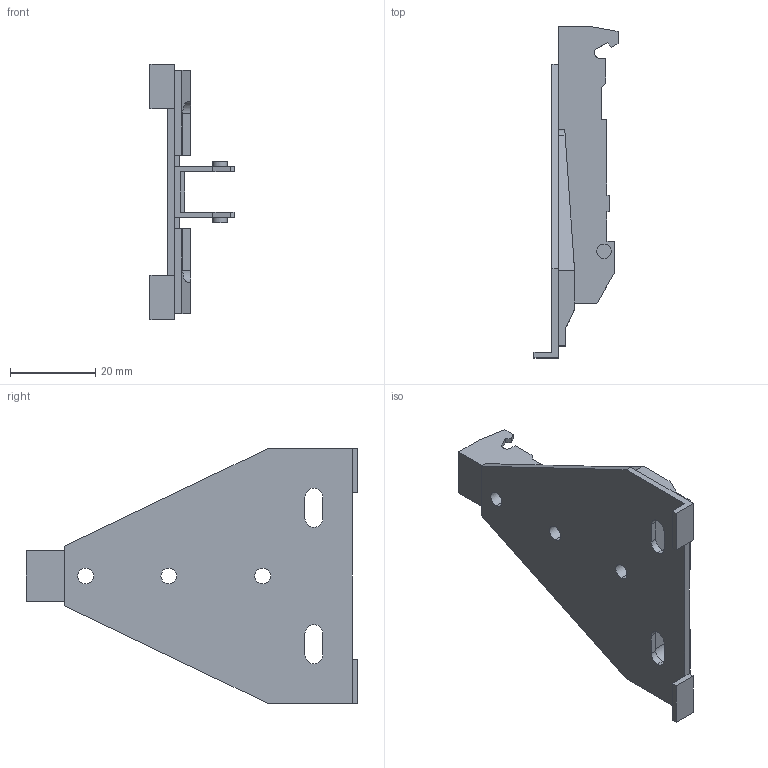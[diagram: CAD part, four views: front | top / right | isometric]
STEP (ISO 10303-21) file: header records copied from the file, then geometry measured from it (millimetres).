
FILE_DESCRIPTION (( 'STEP AP214' ), '1' );
FILE_NAME ('Eco Delta Spax_H 5,0.step', '2010-11-18T10:12:11', ( 'grass' ), ( '' ), 'SwSTEP 2.0', 'SolidWorks 2010', '' );
FILE_SCHEMA (( 'AUTOMOTIVE_DESIGN' ));
Length unit declared in the file: millimetre
Products named in the file (1): Eco Delta Spax_H 5,0
Bounding box: 19.7 x 77.75 x 60 mm (x, y, z)
Volume: 11575.9 mm3; surface area: 10246.7 mm2
Topology: 1 solids, 1 shells, 123 faces, 353 edges, 234 vertices
Faces by surface type: plane 98, cylinder 25
Entity records: 4036 total; most frequent: CARTESIAN_POINT 726, ORIENTED_EDGE 706, DIRECTION 643, EDGE_CURVE 353, LINE 301, VECTOR 301, VERTEX_POINT 234, AXIS2_PLACEMENT_3D 171
